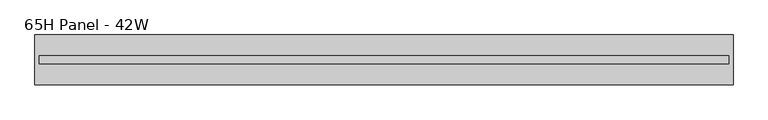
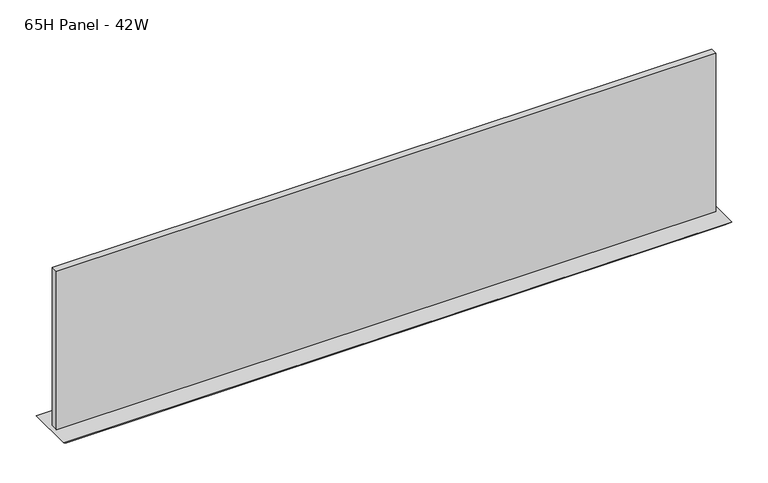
"""IFC4 building model written with IfcOpenShell, lengths in millimetres: furniture geometry, Steelcase - Montage - Tiles - 10H - Frameless Glass Stacker : 65H Panel - 42W."""

from ifc_helpers import new_model, si_unit, frame, origin, place, context, project, spatial, polyline, outline, extrude, faceted_brep, source, transform, mapped, element, save


def furniture_65h_panel_42w_d4833272(model_context):
    return source(origin(), model_context, "Body", "SolidModel", [
        faceted_brep([(1066.8, -38.1000015, 1660.525), (0.0, -38.1000015, 1660.525), (6.35, -31.7500015, 1654.175), (1060.45, -31.7500015, 1654.175), (6.35, 31.7500015, 1654.175), (1060.45, 31.7500015, 1654.175), (0.0, 38.1000015, 1660.525), (1066.8, 38.1000015, 1660.525)], [[[0, 1, 2, 3]], [[3, 2, 4, 5]], [[6, 7, 5, 4]], [[1, 0, 7, 6]], [[2, 1, 6, 4]], [[0, 3, 5, 7]]]),
        extrude(outline(polyline([(1060.0181828, -5.9944001), (6.7818001, -5.9944001), (6.7818001, 5.9944008), (1060.0181828, 5.9944008), (1060.0181828, -5.9944001)])), frame((0.0, 0.0, 1660.525), z_axis=(0.0, 0.0, 1.0), x_axis=(1.0, 0.0, 0.0)), (0.0, 0.0, 1.0), 267.7160475),
    ])


if __name__ == "__main__":
    model = new_model("IFC4")
    model_context = context("Model", 3, world=origin())
    ifc_project = project(units=[si_unit("LENGTHUNIT", "METRE", prefix="MILLI")], contexts=[model_context])
    site = spatial("IfcSite", under=ifc_project)
    building = spatial("IfcBuilding", under=site)
    placement = place(None, origin())
    furniture_65h_panel_42w_shape = furniture_65h_panel_42w_d4833272(model_context)
    element("IfcFurniture", 1, ObjectType="Steelcase - Montage - Tiles - 10H - Frameless Glass Stacker : 65H Panel - 42W", at=placement, inside=building, context=model_context, shape_type="MappedRepresentation", body=[
        mapped(furniture_65h_panel_42w_shape, transform((0.0, 0.0, 0.0), x_axis=(1.0, 0.0, 0.0), y_axis=(0.0, 1.0, 0.0), z_axis=(0.0, 0.0, 1.0))),
    ])
    save(model, "model.ifc")
